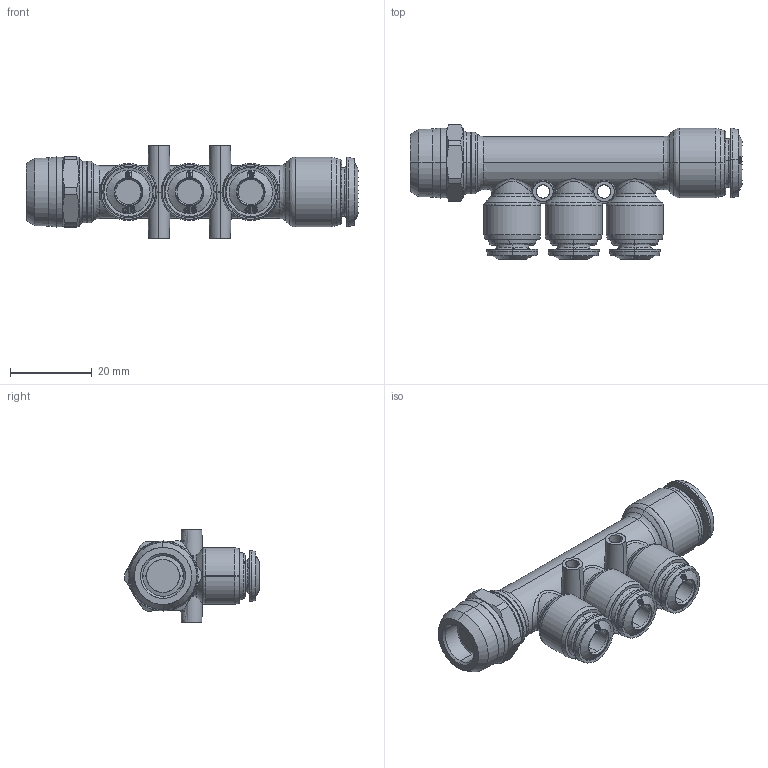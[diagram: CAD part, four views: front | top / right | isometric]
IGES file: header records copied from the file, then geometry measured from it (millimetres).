
Start section: SolidWorks IGES file using analytic representation for surfaces
Global section: file name: K:\Disegni Esecutivi\Serie 55000\ASSIEMI_55000\55360\ASSIEMI_PIENI_55360\5536000008.IGS; native system: SolidWorks 2007; preprocessor: SolidWorks 2007; author: cad02; date: 071130.134200; units: millimetre
Bounding box: 81.4 x 33 x 23 mm (x, y, z)
Surface area: 9037.9 mm2 (no closed solid volume)
Topology: 0 solids, 0 shells, 506 faces, 6331 edges, 6331 vertices
Faces by surface type: bspline 293, revolution 213
